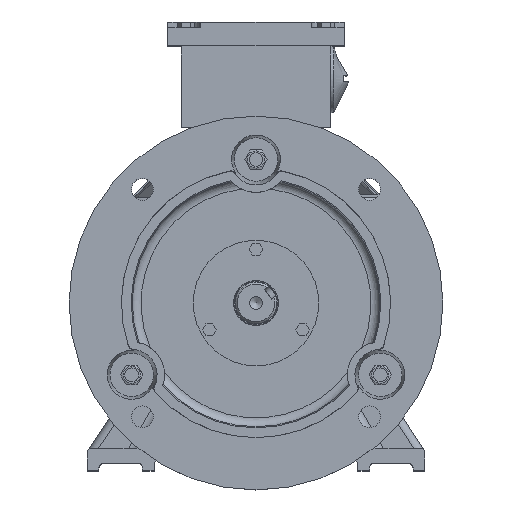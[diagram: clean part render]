
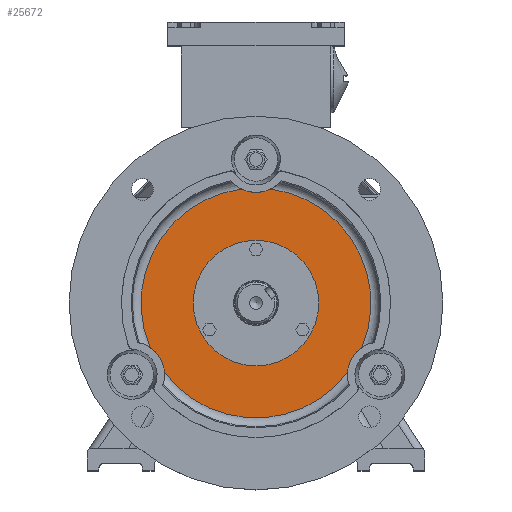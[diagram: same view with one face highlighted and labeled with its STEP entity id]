
A CAD part, top view. The second image highlights one B-rep face of the part: STEP entity #25672.
In plain terms, the highlighted planar face has unit normal (0, 0, 1) as drawn and (-1, 0, 0) by its records, which use the part's own axes.
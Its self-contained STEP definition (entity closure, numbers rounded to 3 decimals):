
#991=PLANE('',#28157);
#1202=FACE_BOUND('',#4085,.T.);
#2526=FACE_OUTER_BOUND('',#4084,.T.);
#4084=EDGE_LOOP('',(#23284,#23285,#23286,#23287,#23288,#23289));
#4085=EDGE_LOOP('',(#23290));
#5118=CIRCLE('',#28057,42.);
#5143=CIRCLE('',#28091,22.);
#5157=CIRCLE('',#28110,76.849);
#5178=CIRCLE('',#28140,76.849);
#5181=CIRCLE('',#28145,76.849);
#5188=CIRCLE('',#28158,22.);
#5189=CIRCLE('',#28159,22.);
#12272=VERTEX_POINT('',#45728);
#12298=VERTEX_POINT('',#45797);
#12299=VERTEX_POINT('',#45810);
#12315=VERTEX_POINT('',#45869);
#12316=VERTEX_POINT('',#45870);
#12360=VERTEX_POINT('',#46017);
#12363=VERTEX_POINT('',#46041);
#15919=EDGE_CURVE('',#12272,#12272,#5118,.T.);
#15953=EDGE_CURVE('',#12298,#12299,#5143,.T.);
#15974=EDGE_CURVE('',#12315,#12316,#5157,.T.);
#16023=EDGE_CURVE('',#12298,#12360,#5178,.T.);
#16027=EDGE_CURVE('',#12363,#12299,#5181,.T.);
#16052=EDGE_CURVE('',#12315,#12360,#5188,.T.);
#16053=EDGE_CURVE('',#12363,#12316,#5189,.T.);
#23284=ORIENTED_EDGE('',*,*,#16023,.T.);
#23285=ORIENTED_EDGE('',*,*,#16052,.F.);
#23286=ORIENTED_EDGE('',*,*,#15974,.T.);
#23287=ORIENTED_EDGE('',*,*,#16053,.F.);
#23288=ORIENTED_EDGE('',*,*,#16027,.T.);
#23289=ORIENTED_EDGE('',*,*,#15953,.F.);
#23290=ORIENTED_EDGE('',*,*,#15919,.F.);
#25672=ADVANCED_FACE('',(#2526,#1202),#991,.F.);
#28057=AXIS2_PLACEMENT_3D('',#45730,#34783,#34784);
#28091=AXIS2_PLACEMENT_3D('',#45811,#34859,#34860);
#28110=AXIS2_PLACEMENT_3D('',#45871,#34901,#34902);
#28140=AXIS2_PLACEMENT_3D('',#46030,#34982,#34983);
#28145=AXIS2_PLACEMENT_3D('',#46042,#34992,#34993);
#28157=AXIS2_PLACEMENT_3D('',#46219,#35018,#35019);
#28158=AXIS2_PLACEMENT_3D('',#46220,#35020,#35021);
#28159=AXIS2_PLACEMENT_3D('',#46221,#35022,#35023);
#34783=DIRECTION('center_axis',(-1.,0.,0.));
#34784=DIRECTION('ref_axis',(0.,0.,1.));
#34859=DIRECTION('center_axis',(-1.,0.,0.));
#34860=DIRECTION('ref_axis',(0.,0.,-1.));
#34901=DIRECTION('center_axis',(-1.,0.,0.));
#34902=DIRECTION('ref_axis',(0.,0.,1.));
#34982=DIRECTION('center_axis',(-1.,0.,0.));
#34983=DIRECTION('ref_axis',(0.,0.,1.));
#34992=DIRECTION('center_axis',(-1.,0.,0.));
#34993=DIRECTION('ref_axis',(0.,0.,1.));
#35018=DIRECTION('center_axis',(1.,0.,0.));
#35019=DIRECTION('ref_axis',(0.,0.,-1.));
#35020=DIRECTION('center_axis',(-1.,0.,0.));
#35021=DIRECTION('ref_axis',(0.,0.,-1.));
#35022=DIRECTION('center_axis',(-1.,0.,0.));
#35023=DIRECTION('ref_axis',(0.,0.,-1.));
#45728=CARTESIAN_POINT('',(9.,0.,-42.));
#45730=CARTESIAN_POINT('Origin',(9.,0.,0.));
#45797=CARTESIAN_POINT('',(9.,-46.493,-61.19));
#45810=CARTESIAN_POINT('',(9.,-29.746,-70.859));
#45811=CARTESIAN_POINT('Origin',(9.,-48.,-83.138));
#45869=CARTESIAN_POINT('',(9.,-29.746,70.859));
#45870=CARTESIAN_POINT('',(9.,76.239,9.669));
#45871=CARTESIAN_POINT('Origin',(9.,0.,0.));
#46017=CARTESIAN_POINT('',(9.,-46.493,61.19));
#46030=CARTESIAN_POINT('Origin',(9.,0.,0.));
#46041=CARTESIAN_POINT('',(9.,76.239,-9.669));
#46042=CARTESIAN_POINT('Origin',(9.,0.,0.));
#46219=CARTESIAN_POINT('Origin',(9.,15.,0.));
#46220=CARTESIAN_POINT('Origin',(9.,-48.,83.138));
#46221=CARTESIAN_POINT('Origin',(9.,96.,0.));
